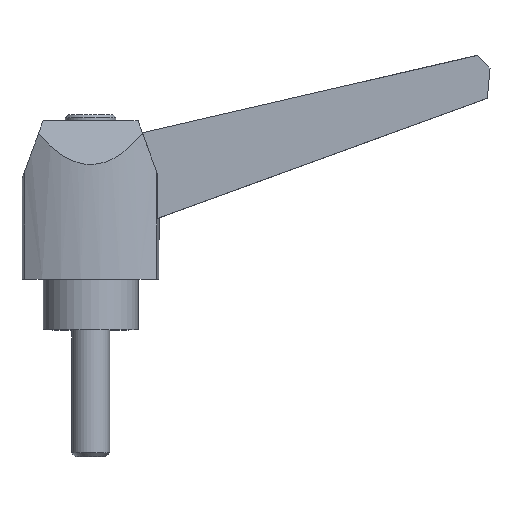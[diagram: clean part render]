
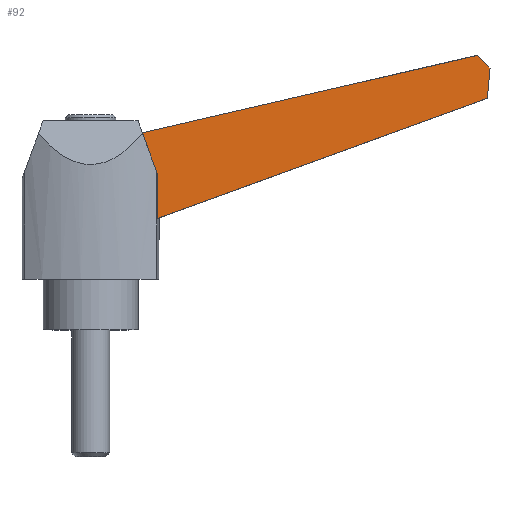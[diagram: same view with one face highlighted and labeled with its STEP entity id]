
A CAD part, top view. The second image highlights one B-rep face of the part: STEP entity #92.
In plain terms, the highlighted planar face has unit normal (0.035, 0, 0.999).
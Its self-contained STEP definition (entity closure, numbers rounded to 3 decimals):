
#92 = ADVANCED_FACE( '', ( #140 ), #141, .T. );
#140 = FACE_OUTER_BOUND( '', #196, .T. );
#141 = PLANE( '', #197 );
#196 = EDGE_LOOP( '', ( #332, #333, #334, #335, #336, #337 ) );
#197 = AXIS2_PLACEMENT_3D( '', #338, #339, #340 );
#332 = ORIENTED_EDGE( '', *, *, #421, .T. );
#333 = ORIENTED_EDGE( '', *, *, #408, .T. );
#334 = ORIENTED_EDGE( '', *, *, #429, .F. );
#335 = ORIENTED_EDGE( '', *, *, #387, .T. );
#336 = ORIENTED_EDGE( '', *, *, #424, .T. );
#337 = ORIENTED_EDGE( '', *, *, #427, .T. );
#338 = CARTESIAN_POINT( '', ( 0.115, 0., 6.561 ) );
#339 = DIRECTION( '', ( 0.035, 0., 0.999 ) );
#340 = DIRECTION( '', ( 0.999, 0., -0.035 ) );
#387 = EDGE_CURVE( '', #435, #439, #441, .T. );
#408 = EDGE_CURVE( '', #469, #479, #481, .T. );
#421 = EDGE_CURVE( '', #502, #469, #503, .T. );
#424 = EDGE_CURVE( '', #439, #506, #508, .T. );
#427 = EDGE_CURVE( '', #506, #502, #511, .T. );
#429 = EDGE_CURVE( '', #435, #479, #513, .F. );
#435 = VERTEX_POINT( '', #521 );
#439 = VERTEX_POINT( '', #529 );
#441 = LINE( '', #531, #532 );
#469 = VERTEX_POINT( '', #566 );
#479 = VERTEX_POINT( '', #581 );
#481 = LINE( '', #583, #584 );
#502 = VERTEX_POINT( '', #609 );
#503 = LINE( '', #610, #611 );
#506 = VERTEX_POINT( '', #614 );
#508 = LINE( '', #616, #617 );
#511 = LINE( '', #622, #623 );
#513 = LINE( '', #626, #627 );
#521 = CARTESIAN_POINT( '', ( 10.51, 17.6, 6.198 ) );
#529 = CARTESIAN_POINT( '', ( 62.66, 36.593, 4.377 ) );
#531 = CARTESIAN_POINT( '', ( 1.114, 14.178, 6.526 ) );
#532 = VECTOR( '', #640, 1000. );
#566 = CARTESIAN_POINT( '', ( 8.178, 31.131, 6.28 ) );
#581 = CARTESIAN_POINT( '', ( 10.51, 24.722, 6.198 ) );
#583 = CARTESIAN_POINT( '', ( 6.701, 35.187, 6.331 ) );
#584 = VECTOR( '', #682, 1000. );
#609 = CARTESIAN_POINT( '', ( 61.077, 43.351, 4.432 ) );
#610 = CARTESIAN_POINT( '', ( 61.077, 43.351, 4.432 ) );
#611 = VECTOR( '', #711, 1000. );
#614 = CARTESIAN_POINT( '', ( 63.076, 41.351, 4.362 ) );
#616 = CARTESIAN_POINT( '', ( 62.66, 36.593, 4.377 ) );
#617 = VECTOR( '', #718, 1000. );
#622 = CARTESIAN_POINT( '', ( 63.076, 41.351, 4.362 ) );
#623 = VECTOR( '', #721, 1000. );
#626 = CARTESIAN_POINT( '', ( 10.51, 33., 6.198 ) );
#627 = VECTOR( '', #723, 1000. );
#640 = DIRECTION( '', ( 0.939, 0.342, -0.033 ) );
#682 = DIRECTION( '', ( 0.342, -0.94, -0.012 ) );
#711 = DIRECTION( '', ( -0.974, -0.225, 0.034 ) );
#718 = DIRECTION( '', ( 0.087, 0.996, -0.003 ) );
#721 = DIRECTION( '', ( -0.707, 0.707, 0.025 ) );
#723 = DIRECTION( '', ( 0., -1., 0. ) );
